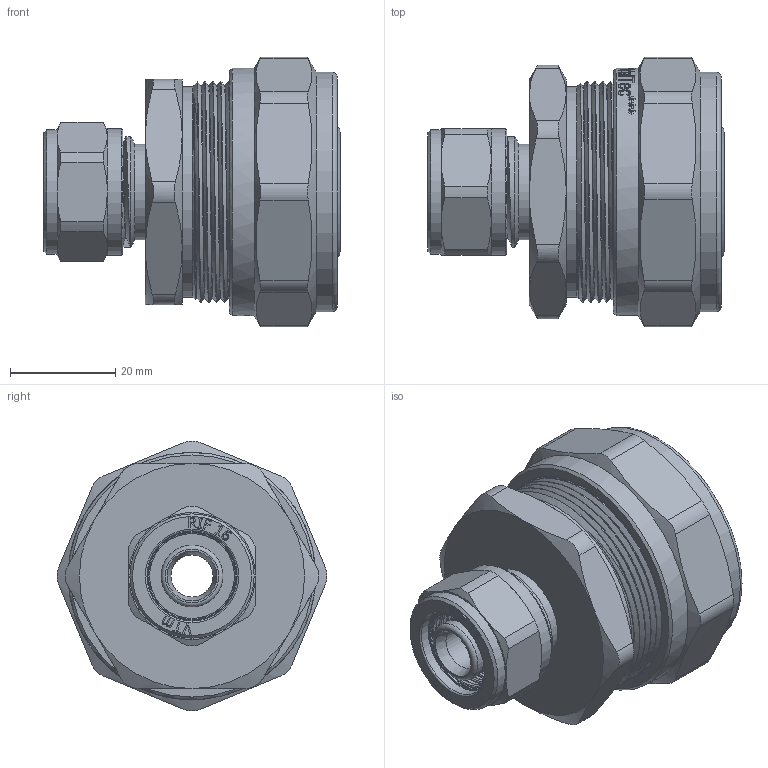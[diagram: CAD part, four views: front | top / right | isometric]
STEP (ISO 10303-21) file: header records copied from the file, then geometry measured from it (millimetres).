
FILE_DESCRIPTION(/* description */ (''),/* implementation_level */ '2;1');
FILE_NAME(/* name */ 'E:\Артём\00000\Работа удаленка\Обжимные фитинги\VTm.303.N.003216.stp',/* time_stamp */ '2020-06-10T15:43:44+03:00',/* author */ ('BeN_GaN'),/* organization */ (''),/* preprocessor_version */ 'ST-DEVELOPER v18',/* originating_system */ 'Autodesk Inventor 2020',/* authorisation */ '');
FILE_SCHEMA (('AUTOMOTIVE_DESIGN { 1 0 10303 214 3 1 1 }'));
Length unit declared in the file: millimetre
Products named in the file (1): VTm.303.N.003216
Bounding box: 56.27 x 51.3 x 51.3 mm (x, y, z)
Volume: 44792.6 mm3; surface area: 24729.4 mm2
Topology: 1 solids, 2 shells, 903 faces, 2573 edges, 1746 vertices
Faces by surface type: bspline 411, plane 274, cylinder 121, torus 49, cone 48
Full cylindrical faces by diameter (mm): 8 x1, 9.4 x2, 11.75 x4, 16.124 x4, 16.2 x1, 16.724 x5, 17.124 x1, 18.2 x1, 18.724 x1, 20 x1, 23.4 x2, 23.624 x1, 24 x1, 25.75 x5, 30.538 x4, 31.683 x5, 32.2 x1, 32.7 x1, 35.5 x1, 40 x1, 40.4 x4, 40.5 x1, 42 x3, 45.5 x1
Entity records: 37143 total; most frequent: CARTESIAN_POINT 16177, ORIENTED_EDGE 5146, DIRECTION 3090, EDGE_CURVE 2573, VERTEX_POINT 1746, LINE 1084, VECTOR 1084, AXIS2_PLACEMENT_3D 1003
